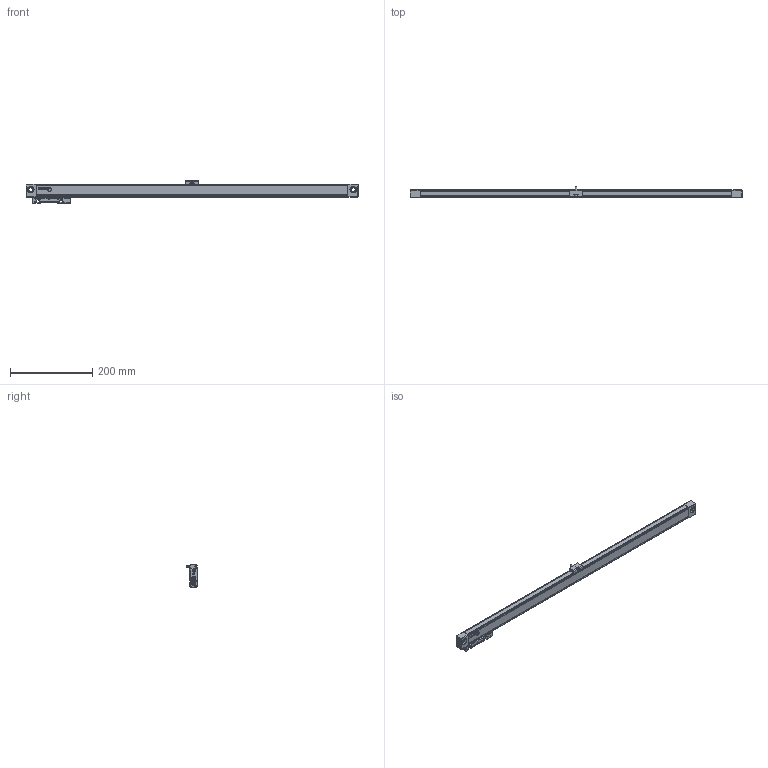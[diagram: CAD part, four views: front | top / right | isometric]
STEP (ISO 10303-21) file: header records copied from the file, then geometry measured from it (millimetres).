
FILE_DESCRIPTION(('Creo Elements/Direct Modeling STEP Export'),'2;1');
FILE_NAME('REGLA_S3-670.stp','2020-09-07T11:06:48',(''),(''),'Creo Elements/Direct Modeling STEP processor for AP214 (Solid Model)','Creo Elements/Direct Modeling 19.0G 27-Nov-2017 (C) Parametric Technology GmbH','');
FILE_SCHEMA(('AUTOMOTIVE_DESIGN { 1 0 10303 214 1 1 1 1 }'));
Length unit declared in the file: millimetre
Products named in the file (4): SOPORTE_INTERMEDIO_S3; REGLA_S3-670; CABEZA_RANURADA_REGLA_S3
Assembly tree (3 placements, depth 2):
  REGLA_S3-670
    CABEZA_RANURADA_REGLA_S3
    REGLA_S3-670
    SOPORTE_INTERMEDIO_S3
Bounding box: 808 x 26.5 x 53.7 mm (x, y, z)
Volume: 453662.1 mm3; surface area: 113292.8 mm2
Topology: 3 solids, 14 shells, 1523 faces, 4978 edges, 3557 vertices
Faces by surface type: plane 1020, cylinder 358, cone 126, torus 10, bspline 9
Entity records: 64513 total; most frequent: CARTESIAN_POINT 12988, ORIENTED_EDGE 9932, DIRECTION 7976, EDGE_CURVE 4964, VECTOR 3772, LINE 3772, VERTEX_POINT 3555, AXIS2_PLACEMENT_3D 2102
